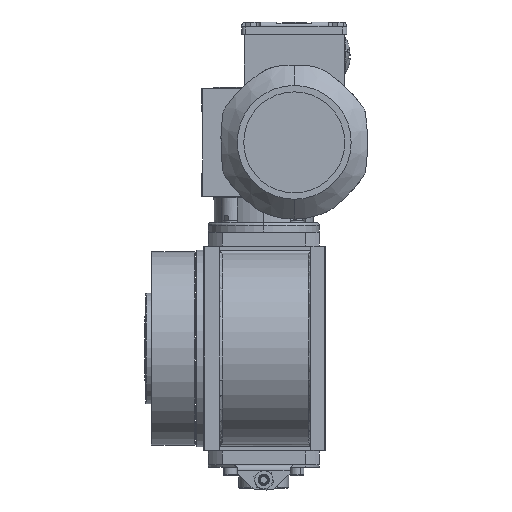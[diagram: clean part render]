
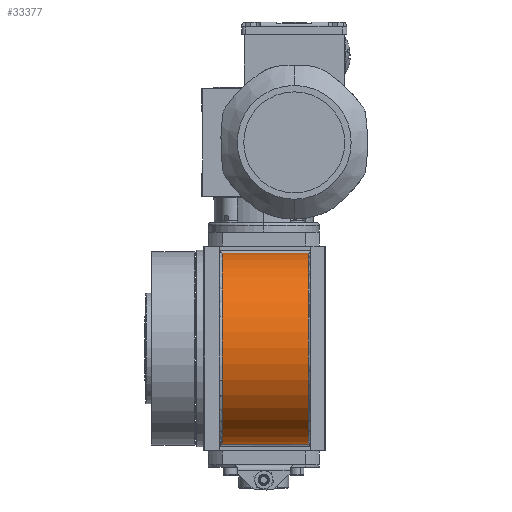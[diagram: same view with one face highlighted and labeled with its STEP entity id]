
A CAD part, left-side view. The second image highlights one B-rep face of the part: STEP entity #33377.
In plain terms, the highlighted cylindrical face has radius 69 mm (diameter 138 mm), a partial arc.
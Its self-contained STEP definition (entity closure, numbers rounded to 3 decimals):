
#443 = ORIENTED_EDGE ( 'NONE', *, *, #39295, .T. ) ;
#1787 = AXIS2_PLACEMENT_3D ( 'NONE', #14142, #8608, #36207 ) ;
#8280 = CARTESIAN_POINT ( 'NONE',  ( -42.511, 8.762, -28.281 ) ) ;
#8608 = DIRECTION ( 'NONE',  ( 0., -1., 0. ) ) ;
#12095 = FACE_OUTER_BOUND ( 'NONE', #58044, .T. ) ;
#13132 = EDGE_CURVE ( 'NONE', #57598, #42029, #68779, .T. ) ;
#14142 = CARTESIAN_POINT ( 'NONE',  ( -38.624, 8.762, 40.609 ) ) ;
#15252 = LINE ( 'NONE', #37734, #26620 ) ;
#17946 = CARTESIAN_POINT ( 'NONE',  ( -38.624, 10.762, 40.609 ) ) ;
#19566 = ORIENTED_EDGE ( 'NONE', *, *, #13132, .T. ) ;
#26620 = VECTOR ( 'NONE', #59809, 1000. ) ;
#33377 = ADVANCED_FACE ( 'NONE', ( #12095 ), #34557, .T. ) ;
#34557 = CYLINDRICAL_SURFACE ( 'NONE', #39114, 69. ) ;
#36207 = DIRECTION ( 'NONE',  ( 0., 0., 1. ) ) ;
#36215 = EDGE_CURVE ( 'NONE', #42029, #61254, #15252, .T. ) ;
#37710 = VERTEX_POINT ( 'NONE', #55358 ) ;
#37734 = CARTESIAN_POINT ( 'NONE',  ( -42.511, 10.762, -28.281 ) ) ;
#38312 = CARTESIAN_POINT ( 'NONE',  ( -42.511, 10.762, 109.5 ) ) ;
#39114 = AXIS2_PLACEMENT_3D ( 'NONE', #17946, #57007, #62839 ) ;
#39295 = EDGE_CURVE ( 'NONE', #37710, #57598, #50774, .T. ) ;
#40598 = CIRCLE ( 'NONE', #61610, 69. ) ;
#41540 = CARTESIAN_POINT ( 'NONE',  ( -38.624, -53.238, 40.609 ) ) ;
#42029 = VERTEX_POINT ( 'NONE', #8280 ) ;
#42615 = DIRECTION ( 'NONE',  ( 0., 1., 0. ) ) ;
#44165 = DIRECTION ( 'NONE',  ( 0., 1., 0. ) ) ;
#50774 = LINE ( 'NONE', #38312, #68191 ) ;
#55358 = CARTESIAN_POINT ( 'NONE',  ( -42.511, -53.238, 109.5 ) ) ;
#57007 = DIRECTION ( 'NONE',  ( 0., -1., 0. ) ) ;
#57598 = VERTEX_POINT ( 'NONE', #59160 ) ;
#58044 = EDGE_LOOP ( 'NONE', ( #70914, #443, #19566, #58443 ) ) ;
#58443 = ORIENTED_EDGE ( 'NONE', *, *, #36215, .T. ) ;
#59160 = CARTESIAN_POINT ( 'NONE',  ( -42.511, 8.762, 109.5 ) ) ;
#59809 = DIRECTION ( 'NONE',  ( 0., -1., 0. ) ) ;
#60751 = CARTESIAN_POINT ( 'NONE',  ( -42.511, -53.238, -28.281 ) ) ;
#61254 = VERTEX_POINT ( 'NONE', #60751 ) ;
#61610 = AXIS2_PLACEMENT_3D ( 'NONE', #41540, #42615, #63976 ) ;
#62839 = DIRECTION ( 'NONE',  ( 0., 0., -1. ) ) ;
#63976 = DIRECTION ( 'NONE',  ( 0., 0., 1. ) ) ;
#68191 = VECTOR ( 'NONE', #44165, 1000. ) ;
#68779 = CIRCLE ( 'NONE', #1787, 69. ) ;
#70914 = ORIENTED_EDGE ( 'NONE', *, *, #70983, .T. ) ;
#70983 = EDGE_CURVE ( 'NONE', #61254, #37710, #40598, .T. ) ;
